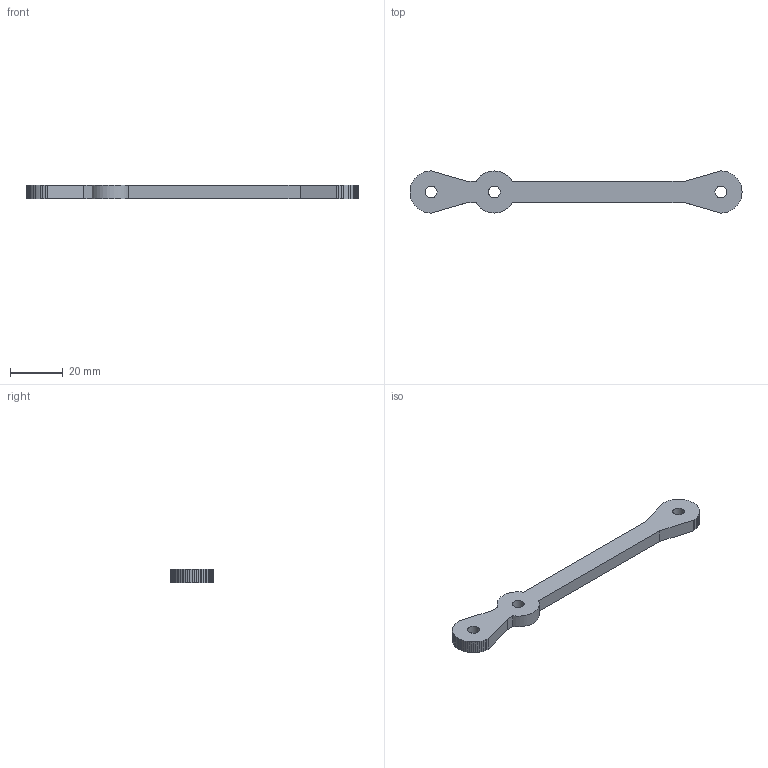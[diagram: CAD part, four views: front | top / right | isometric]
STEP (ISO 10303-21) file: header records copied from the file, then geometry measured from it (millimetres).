
FILE_DESCRIPTION(('Open CASCADE Model'),'2;1');
FILE_NAME('Open CASCADE Shape Model','2026-10-14T15:05:47',('Author'),( 'Open CASCADE'),'Open CASCADE STEP processor 7.8','Open CASCADE 7.8' ,'Unknown');
FILE_SCHEMA(('AUTOMOTIVE_DESIGN { 1 0 10303 214 1 1 1 1 }'));
Length unit declared in the file: millimetre
Products named in the file (1): Open CASCADE STEP translator 7.8 7
Bounding box: 126 x 16 x 5 mm (x, y, z)
Volume: 6118.2 mm3; surface area: 4050.8 mm2
Topology: 1 solids, 1 shells, 79 faces, 231 edges, 154 vertices
Faces by surface type: plane 74, cylinder 5
Full cylindrical faces by diameter (mm): 4.5 x3
Entity records: 5614 total; most frequent: CARTESIAN_POINT 967, DIRECTION 853, LINE 669, VECTOR 669, ORIENTED_EDGE 462, PCURVE 462, DEFINITIONAL_REPRESENTATION 462, EDGE_CURVE 231
